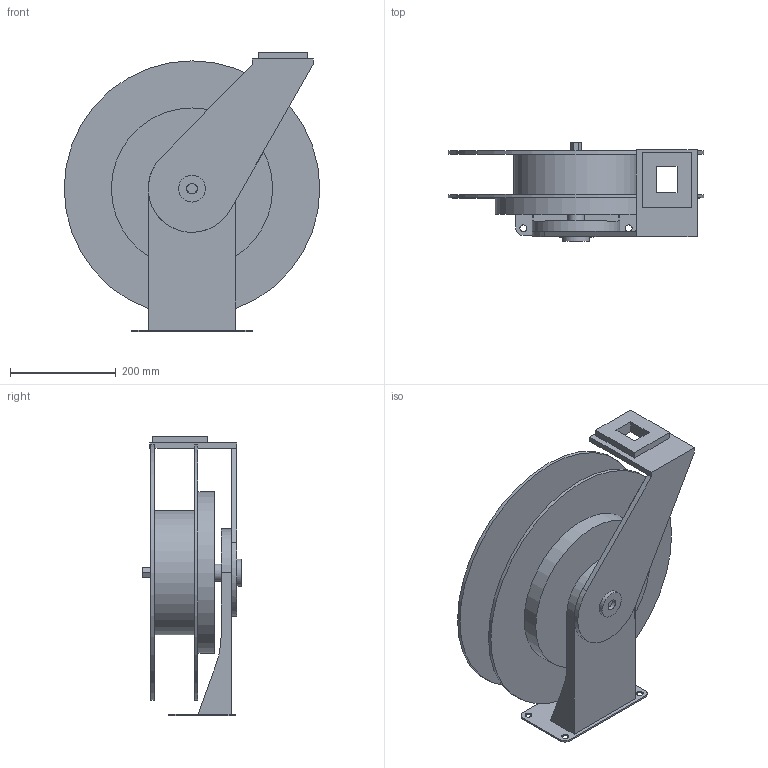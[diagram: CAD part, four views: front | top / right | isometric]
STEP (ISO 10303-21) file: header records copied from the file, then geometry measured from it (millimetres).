
FILE_DESCRIPTION( ( 'Unknown' ), '1' );
FILE_NAME( 'J:/NPD/RE 12893 3D WEB MODELS/7000 SERIES/TW7000 TW.stp', 'Unknown', ( 'Unknown' ), ( 'Unknown' ), 'PSStep 10.1', 'Unknown', ' ' );
FILE_SCHEMA( ( 'AUTOMOTIVE_DESIGN { 1 0 10303 214 1 1 1 1 }' ) );
Length unit declared in the file: millimetre
Products named in the file (1): 1
Bounding box: 482.6 x 185.93 x 527.84 mm (x, y, z)
Volume: 5640732.7 mm3; surface area: 1162729.3 mm2
Topology: 1 solids, 1 shells, 106 faces, 244 edges, 162 vertices
Faces by surface type: plane 71, cylinder 31, cone 4
Full cylindrical faces by diameter (mm): 7.137 x2, 9.144 x2, 11.862 x1, 13.106 x4, 14.287 x2, 18.923 x1, 31.75 x1, 44.45 x1, 50.8 x1, 53.975 x1, 107.95 x1, 231.953 x1, 234.95 x1, 304.648 x1, 482.6 x2
Entity records: 3725 total; most frequent: DIRECTION 503, CARTESIAN_POINT 477, ORIENTED_EDGE 426, EDGE_CURVE 213, AXIS2_PLACEMENT_3D 183, EDGE_LOOP 168, VERTEX_POINT 157, LINE 137
